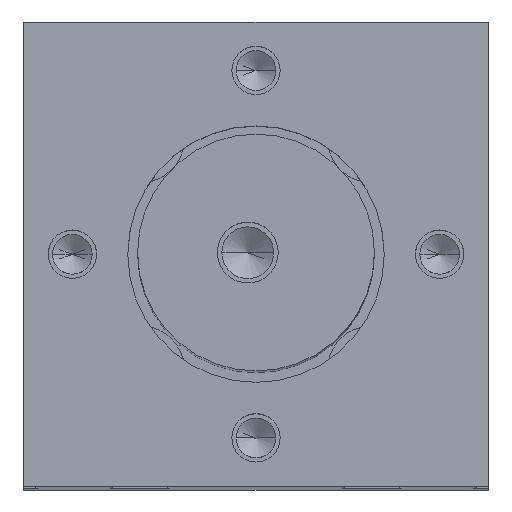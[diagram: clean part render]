
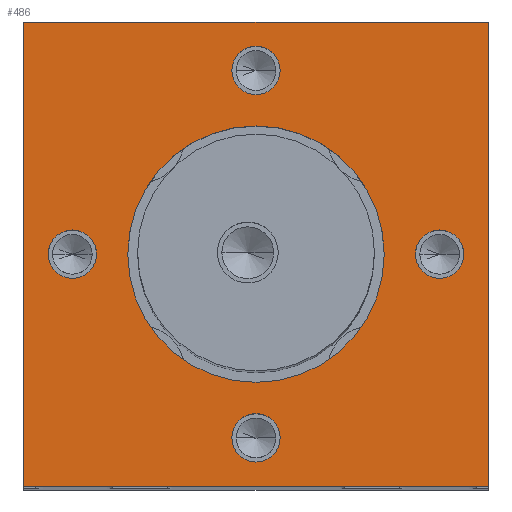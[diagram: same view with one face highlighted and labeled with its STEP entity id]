
A CAD part, top view. The second image highlights one B-rep face of the part: STEP entity #486.
In plain terms, the highlighted planar face has unit normal (0, 0, 1).
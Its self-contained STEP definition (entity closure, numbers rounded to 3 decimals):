
#74 = VERTEX_POINT ( 'NONE', #782 ) ;
#92 = VERTEX_POINT ( 'NONE', #800 ) ;
#104 = VERTEX_POINT ( 'NONE', #812 ) ;
#486 = ADVANCED_FACE ( 'NONE', ( #3762, #3763, #3764, #3765, #3766, #3767 ), #4828, .T. ) ;
#700 = VERTEX_POINT ( 'NONE', #5491 ) ;
#782 = CARTESIAN_POINT ( 'NONE',  ( 628.056, 169.232, 0. ) ) ;
#800 = CARTESIAN_POINT ( 'NONE',  ( 632.038, 131.132, 0. ) ) ;
#812 = CARTESIAN_POINT ( 'NONE',  ( 628.056, 93.032, 0. ) ) ;
#1041 = EDGE_CURVE ( 'NONE', #700, #10405, #4239, .T. ) ;
#1043 = EDGE_CURVE ( 'NONE', #9974, #9991, #4242, .T. ) ;
#1056 = EDGE_CURVE ( 'NONE', #10378, #74, #4264, .T. ) ;
#1062 = EDGE_CURVE ( 'NONE', #10033, #10011, #4275, .T. ) ;
#1065 = EDGE_CURVE ( 'NONE', #74, #104, #4277, .T. ) ;
#1070 = EDGE_CURVE ( 'NONE', #10405, #700, #4287, .T. ) ;
#1083 = EDGE_CURVE ( 'NONE', #9983, #10002, #4308, .T. ) ;
#1085 = EDGE_CURVE ( 'NONE', #9991, #9974, #4310, .T. ) ;
#1091 = EDGE_CURVE ( 'NONE', #92, #10401, #4320, .T. ) ;
#1092 = EDGE_CURVE ( 'NONE', #10400, #10378, #4319, .T. ) ;
#1095 = EDGE_CURVE ( 'NONE', #10011, #10033, #4327, .T. ) ;
#1097 = EDGE_CURVE ( 'NONE', #10401, #92, #4330, .T. ) ;
#1101 = EDGE_CURVE ( 'NONE', #104, #10400, #4335, .T. ) ;
#1111 = EDGE_CURVE ( 'NONE', #10002, #9983, #4351, .T. ) ;
#1234 = AXIS2_PLACEMENT_3D ( 'NONE', #4829, #4830, #4831 ) ;
#1467 = AXIS2_PLACEMENT_3D ( 'NONE', #6406, #6408, #6410 ) ;
#1469 = AXIS2_PLACEMENT_3D ( 'NONE', #6418, #6420, #6422 ) ;
#1474 = AXIS2_PLACEMENT_3D ( 'NONE', #6505, #6507, #6509 ) ;
#1477 = AXIS2_PLACEMENT_3D ( 'NONE', #6544, #6545, #6547 ) ;
#1483 = AXIS2_PLACEMENT_3D ( 'NONE', #6608, #6610, #6611 ) ;
#1484 = AXIS2_PLACEMENT_3D ( 'NONE', #6618, #6620, #6621 ) ;
#1487 = AXIS2_PLACEMENT_3D ( 'NONE', #6648, #6650, #6651 ) ;
#1488 = AXIS2_PLACEMENT_3D ( 'NONE', #6666, #6668, #6670 ) ;
#1489 = AXIS2_PLACEMENT_3D ( 'NONE', #6676, #6678, #6680 ) ;
#1496 = AXIS2_PLACEMENT_3D ( 'NONE', #6746, #6748, #6750 ) ;
#3762 = FACE_BOUND ( 'NONE', #10281, .T. ) ;
#3763 = FACE_BOUND ( 'NONE', #10262, .T. ) ;
#3764 = FACE_BOUND ( 'NONE', #10274, .T. ) ;
#3765 = FACE_BOUND ( 'NONE', #10290, .T. ) ;
#3766 = FACE_BOUND ( 'NONE', #10273, .T. ) ;
#3767 = FACE_OUTER_BOUND ( 'NONE', #10269, .T. ) ;
#4239 = CIRCLE ( 'NONE', #1467, 21.041 ) ;
#4242 = CIRCLE ( 'NONE', #1469, 3.969 ) ;
#4264 = LINE ( 'NONE', #6477, #4265 ) ;
#4265 = VECTOR ( 'NONE', #6479, 1000. ) ;
#4275 = CIRCLE ( 'NONE', #1474, 3.969 ) ;
#4277 = LINE ( 'NONE', #6521, #4279 ) ;
#4279 = VECTOR ( 'NONE', #6523, 1000. ) ;
#4287 = CIRCLE ( 'NONE', #1477, 21.041 ) ;
#4308 = CIRCLE ( 'NONE', #1483, 3.969 ) ;
#4310 = CIRCLE ( 'NONE', #1484, 3.969 ) ;
#4319 = LINE ( 'NONE', #6654, #4321 ) ;
#4320 = CIRCLE ( 'NONE', #1487, 3.969 ) ;
#4321 = VECTOR ( 'NONE', #6655, 1000. ) ;
#4327 = CIRCLE ( 'NONE', #1488, 3.969 ) ;
#4330 = CIRCLE ( 'NONE', #1489, 3.969 ) ;
#4335 = LINE ( 'NONE', #6696, #4336 ) ;
#4336 = VECTOR ( 'NONE', #6698, 1000. ) ;
#4351 = CIRCLE ( 'NONE', #1496, 3.969 ) ;
#4828 = PLANE ( 'NONE',  #1234 ) ;
#4829 = CARTESIAN_POINT ( 'NONE',  ( 628.056, 93.032, 0. ) ) ;
#4830 = DIRECTION ( 'NONE',  ( 0., 0., 1. ) ) ;
#4831 = DIRECTION ( 'NONE',  ( 1., 0., 0. ) ) ;
#5491 = CARTESIAN_POINT ( 'NONE',  ( 645.115, 131.132, 0. ) ) ;
#6406 = CARTESIAN_POINT ( 'NONE',  ( 666.156, 131.132, 0. ) ) ;
#6408 = DIRECTION ( 'NONE',  ( 0., 0., 1. ) ) ;
#6410 = DIRECTION ( 'NONE',  ( 1., 0., 0. ) ) ;
#6418 = CARTESIAN_POINT ( 'NONE',  ( 666.156, 100.982, 0. ) ) ;
#6420 = DIRECTION ( 'NONE',  ( 0., 0., 1. ) ) ;
#6422 = DIRECTION ( 'NONE',  ( 1., 0., 0. ) ) ;
#6477 = CARTESIAN_POINT ( 'NONE',  ( 628.056, 169.232, 0. ) ) ;
#6479 = DIRECTION ( 'NONE',  ( -1., 0., 0. ) ) ;
#6505 = CARTESIAN_POINT ( 'NONE',  ( 696.306, 131.132, 0. ) ) ;
#6507 = DIRECTION ( 'NONE',  ( 0., 0., 1. ) ) ;
#6509 = DIRECTION ( 'NONE',  ( 1., 0., 0. ) ) ;
#6521 = CARTESIAN_POINT ( 'NONE',  ( 628.056, 169.232, 0. ) ) ;
#6523 = DIRECTION ( 'NONE',  ( 0., -1., 0. ) ) ;
#6544 = CARTESIAN_POINT ( 'NONE',  ( 666.156, 131.132, 0. ) ) ;
#6545 = DIRECTION ( 'NONE',  ( 0., 0., 1. ) ) ;
#6547 = DIRECTION ( 'NONE',  ( 1., 0., 0. ) ) ;
#6608 = CARTESIAN_POINT ( 'NONE',  ( 666.156, 161.281, 0. ) ) ;
#6610 = DIRECTION ( 'NONE',  ( 0., 0., 1. ) ) ;
#6611 = DIRECTION ( 'NONE',  ( 1., 0., 0. ) ) ;
#6618 = CARTESIAN_POINT ( 'NONE',  ( 666.156, 100.982, 0. ) ) ;
#6620 = DIRECTION ( 'NONE',  ( 0., 0., 1. ) ) ;
#6621 = DIRECTION ( 'NONE',  ( 1., 0., 0. ) ) ;
#6648 = CARTESIAN_POINT ( 'NONE',  ( 636.007, 131.132, 0. ) ) ;
#6650 = DIRECTION ( 'NONE',  ( 0., 0., 1. ) ) ;
#6651 = DIRECTION ( 'NONE',  ( 1., 0., 0. ) ) ;
#6654 = CARTESIAN_POINT ( 'NONE',  ( 704.256, 169.232, 0. ) ) ;
#6655 = DIRECTION ( 'NONE',  ( 0., 1., 0. ) ) ;
#6666 = CARTESIAN_POINT ( 'NONE',  ( 696.306, 131.132, 0. ) ) ;
#6668 = DIRECTION ( 'NONE',  ( 0., 0., 1. ) ) ;
#6670 = DIRECTION ( 'NONE',  ( 1., 0., 0. ) ) ;
#6676 = CARTESIAN_POINT ( 'NONE',  ( 636.007, 131.132, 0. ) ) ;
#6678 = DIRECTION ( 'NONE',  ( 0., 0., 1. ) ) ;
#6680 = DIRECTION ( 'NONE',  ( 1., 0., 0. ) ) ;
#6696 = CARTESIAN_POINT ( 'NONE',  ( 628.056, 93.032, 0. ) ) ;
#6698 = DIRECTION ( 'NONE',  ( 1., 0., 0. ) ) ;
#6746 = CARTESIAN_POINT ( 'NONE',  ( 666.156, 161.281, 0. ) ) ;
#6748 = DIRECTION ( 'NONE',  ( 0., 0., 1. ) ) ;
#6750 = DIRECTION ( 'NONE',  ( 1., 0., 0. ) ) ;
#9784 = CARTESIAN_POINT ( 'NONE',  ( 662.188, 100.982, 0. ) ) ;
#9793 = CARTESIAN_POINT ( 'NONE',  ( 670.125, 161.281, 0. ) ) ;
#9801 = CARTESIAN_POINT ( 'NONE',  ( 670.125, 100.982, 0. ) ) ;
#9812 = CARTESIAN_POINT ( 'NONE',  ( 662.188, 161.281, 0. ) ) ;
#9821 = CARTESIAN_POINT ( 'NONE',  ( 700.275, 131.132, 0. ) ) ;
#9843 = CARTESIAN_POINT ( 'NONE',  ( 692.337, 131.132, 0. ) ) ;
#9875 = CARTESIAN_POINT ( 'NONE',  ( 704.256, 169.232, 0. ) ) ;
#9897 = CARTESIAN_POINT ( 'NONE',  ( 704.256, 93.032, 0. ) ) ;
#9898 = CARTESIAN_POINT ( 'NONE',  ( 639.975, 131.132, 0. ) ) ;
#9902 = CARTESIAN_POINT ( 'NONE',  ( 687.198, 131.132, 0. ) ) ;
#9974 = VERTEX_POINT ( 'NONE', #9784 ) ;
#9983 = VERTEX_POINT ( 'NONE', #9793 ) ;
#9991 = VERTEX_POINT ( 'NONE', #9801 ) ;
#10002 = VERTEX_POINT ( 'NONE', #9812 ) ;
#10011 = VERTEX_POINT ( 'NONE', #9821 ) ;
#10033 = VERTEX_POINT ( 'NONE', #9843 ) ;
#10075 = ORIENTED_EDGE ( 'NONE', *, *, #1062, .F. ) ;
#10076 = ORIENTED_EDGE ( 'NONE', *, *, #1091, .F. ) ;
#10080 = ORIENTED_EDGE ( 'NONE', *, *, #1070, .F. ) ;
#10104 = ORIENTED_EDGE ( 'NONE', *, *, #1097, .F. ) ;
#10105 = ORIENTED_EDGE ( 'NONE', *, *, #1095, .F. ) ;
#10106 = ORIENTED_EDGE ( 'NONE', *, *, #1041, .F. ) ;
#10107 = ORIENTED_EDGE ( 'NONE', *, *, #1043, .F. ) ;
#10108 = ORIENTED_EDGE ( 'NONE', *, *, #1111, .F. ) ;
#10116 = ORIENTED_EDGE ( 'NONE', *, *, #1085, .F. ) ;
#10129 = ORIENTED_EDGE ( 'NONE', *, *, #1083, .F. ) ;
#10138 = ORIENTED_EDGE ( 'NONE', *, *, #1101, .T. ) ;
#10262 = EDGE_LOOP ( 'NONE', ( #10116, #10107 ) ) ;
#10269 = EDGE_LOOP ( 'NONE', ( #10339, #10138, #10341, #10347 ) ) ;
#10273 = EDGE_LOOP ( 'NONE', ( #10080, #10106 ) ) ;
#10274 = EDGE_LOOP ( 'NONE', ( #10105, #10075 ) ) ;
#10281 = EDGE_LOOP ( 'NONE', ( #10129, #10108 ) ) ;
#10290 = EDGE_LOOP ( 'NONE', ( #10104, #10076 ) ) ;
#10339 = ORIENTED_EDGE ( 'NONE', *, *, #1065, .T. ) ;
#10341 = ORIENTED_EDGE ( 'NONE', *, *, #1092, .T. ) ;
#10347 = ORIENTED_EDGE ( 'NONE', *, *, #1056, .T. ) ;
#10378 = VERTEX_POINT ( 'NONE', #9875 ) ;
#10400 = VERTEX_POINT ( 'NONE', #9897 ) ;
#10401 = VERTEX_POINT ( 'NONE', #9898 ) ;
#10405 = VERTEX_POINT ( 'NONE', #9902 ) ;
